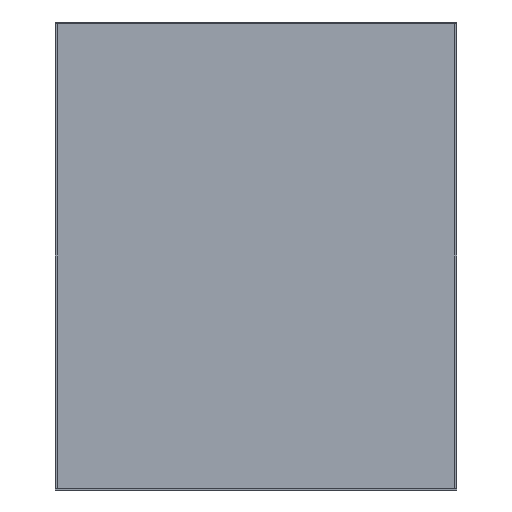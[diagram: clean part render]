
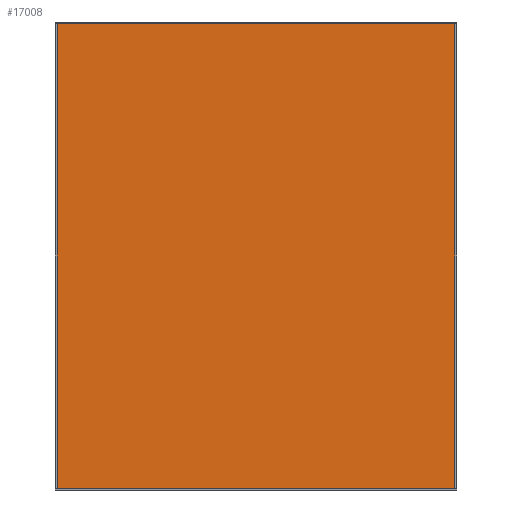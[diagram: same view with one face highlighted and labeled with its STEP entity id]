
A CAD part, front view. The second image highlights one B-rep face of the part: STEP entity #17008.
In plain terms, the highlighted planar face has unit normal (0, -1, 0).
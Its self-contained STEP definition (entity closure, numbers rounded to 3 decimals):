
#16792 = EDGE_CURVE('',#16793,#16795,#16797,.T.);
#16793 = VERTEX_POINT('',#16794);
#16794 = CARTESIAN_POINT('',(-0.155,-0.096,0.002)
  );
#16795 = VERTEX_POINT('',#16796);
#16796 = CARTESIAN_POINT('',(-0.155,-0.096,
    0.364));
#16797 = SURFACE_CURVE('',#16798,(#16802,#16814),.PCURVE_S1.);
#16798 = LINE('',#16799,#16800);
#16799 = CARTESIAN_POINT('',(-0.155,-0.096,0.002)
  );
#16800 = VECTOR('',#16801,1.);
#16801 = DIRECTION('',(0.,0.,1.));
#16802 = PCURVE('',#16803,#16808);
#16803 = PLANE('',#16804);
#16804 = AXIS2_PLACEMENT_3D('',#16805,#16806,#16807);
#16805 = CARTESIAN_POINT('',(-0.155,-0.096,0.002)
  );
#16806 = DIRECTION('',(1.,0.,0.));
#16807 = DIRECTION('',(0.,0.,1.));
#16808 = DEFINITIONAL_REPRESENTATION('',(#16809),#16813);
#16809 = LINE('',#16810,#16811);
#16810 = CARTESIAN_POINT('',(0.,0.));
#16811 = VECTOR('',#16812,1.);
#16812 = DIRECTION('',(1.,0.));
#16813 = ( GEOMETRIC_REPRESENTATION_CONTEXT(2) 
PARAMETRIC_REPRESENTATION_CONTEXT() REPRESENTATION_CONTEXT('2D SPACE',''
  ) );
#16814 = PCURVE('',#16815,#16820);
#16815 = PLANE('',#16816);
#16816 = AXIS2_PLACEMENT_3D('',#16817,#16818,#16819);
#16817 = CARTESIAN_POINT('',(-0.155,-0.096,0.002)
  );
#16818 = DIRECTION('',(0.,1.,0.));
#16819 = DIRECTION('',(0.,0.,1.));
#16820 = DEFINITIONAL_REPRESENTATION('',(#16821),#16825);
#16821 = LINE('',#16822,#16823);
#16822 = CARTESIAN_POINT('',(0.,0.));
#16823 = VECTOR('',#16824,1.);
#16824 = DIRECTION('',(1.,0.));
#16825 = ( GEOMETRIC_REPRESENTATION_CONTEXT(2) 
PARAMETRIC_REPRESENTATION_CONTEXT() REPRESENTATION_CONTEXT('2D SPACE',''
  ) );
#16843 = PLANE('',#16844);
#16844 = AXIS2_PLACEMENT_3D('',#16845,#16846,#16847);
#16845 = CARTESIAN_POINT('',(-0.155,-0.096,0.002)
  );
#16846 = DIRECTION('',(0.,0.,1.));
#16847 = DIRECTION('',(1.,0.,0.));
#16897 = PLANE('',#16898);
#16898 = AXIS2_PLACEMENT_3D('',#16899,#16900,#16901);
#16899 = CARTESIAN_POINT('',(-0.155,-0.096,
    0.364));
#16900 = DIRECTION('',(0.,0.,1.));
#16901 = DIRECTION('',(1.,0.,0.));
#16912 = EDGE_CURVE('',#16913,#16915,#16917,.T.);
#16913 = VERTEX_POINT('',#16914);
#16914 = CARTESIAN_POINT('',(0.155,-0.096,0.002)
  );
#16915 = VERTEX_POINT('',#16916);
#16916 = CARTESIAN_POINT('',(0.155,-0.096,
    0.364));
#16917 = SURFACE_CURVE('',#16918,(#16922,#16934),.PCURVE_S1.);
#16918 = LINE('',#16919,#16920);
#16919 = CARTESIAN_POINT('',(0.155,-0.096,0.002)
  );
#16920 = VECTOR('',#16921,1.);
#16921 = DIRECTION('',(0.,0.,1.));
#16922 = PCURVE('',#16923,#16928);
#16923 = PLANE('',#16924);
#16924 = AXIS2_PLACEMENT_3D('',#16925,#16926,#16927);
#16925 = CARTESIAN_POINT('',(0.155,-0.096,0.002)
  );
#16926 = DIRECTION('',(1.,0.,0.));
#16927 = DIRECTION('',(0.,0.,1.));
#16928 = DEFINITIONAL_REPRESENTATION('',(#16929),#16933);
#16929 = LINE('',#16930,#16931);
#16930 = CARTESIAN_POINT('',(0.,0.));
#16931 = VECTOR('',#16932,1.);
#16932 = DIRECTION('',(1.,0.));
#16933 = ( GEOMETRIC_REPRESENTATION_CONTEXT(2) 
PARAMETRIC_REPRESENTATION_CONTEXT() REPRESENTATION_CONTEXT('2D SPACE',''
  ) );
#16934 = PCURVE('',#16815,#16935);
#16935 = DEFINITIONAL_REPRESENTATION('',(#16936),#16940);
#16936 = LINE('',#16937,#16938);
#16937 = CARTESIAN_POINT('',(0.,0.31));
#16938 = VECTOR('',#16939,1.);
#16939 = DIRECTION('',(1.,0.));
#16940 = ( GEOMETRIC_REPRESENTATION_CONTEXT(2) 
PARAMETRIC_REPRESENTATION_CONTEXT() REPRESENTATION_CONTEXT('2D SPACE',''
  ) );
#17008 = ADVANCED_FACE('',(#17009),#16815,.F.);
#17009 = FACE_BOUND('',#17010,.F.);
#17010 = EDGE_LOOP('',(#17011,#17032,#17033,#17054));
#17011 = ORIENTED_EDGE('',*,*,#17012,.F.);
#17012 = EDGE_CURVE('',#16793,#16913,#17013,.T.);
#17013 = SURFACE_CURVE('',#17014,(#17018,#17025),.PCURVE_S1.);
#17014 = LINE('',#17015,#17016);
#17015 = CARTESIAN_POINT('',(-0.155,-0.096,0.002)
  );
#17016 = VECTOR('',#17017,1.);
#17017 = DIRECTION('',(1.,0.,0.));
#17018 = PCURVE('',#16815,#17019);
#17019 = DEFINITIONAL_REPRESENTATION('',(#17020),#17024);
#17020 = LINE('',#17021,#17022);
#17021 = CARTESIAN_POINT('',(0.,0.));
#17022 = VECTOR('',#17023,1.);
#17023 = DIRECTION('',(0.,1.));
#17024 = ( GEOMETRIC_REPRESENTATION_CONTEXT(2) 
PARAMETRIC_REPRESENTATION_CONTEXT() REPRESENTATION_CONTEXT('2D SPACE',''
  ) );
#17025 = PCURVE('',#16843,#17026);
#17026 = DEFINITIONAL_REPRESENTATION('',(#17027),#17031);
#17027 = LINE('',#17028,#17029);
#17028 = CARTESIAN_POINT('',(0.,0.));
#17029 = VECTOR('',#17030,1.);
#17030 = DIRECTION('',(1.,0.));
#17031 = ( GEOMETRIC_REPRESENTATION_CONTEXT(2) 
PARAMETRIC_REPRESENTATION_CONTEXT() REPRESENTATION_CONTEXT('2D SPACE',''
  ) );
#17032 = ORIENTED_EDGE('',*,*,#16792,.T.);
#17033 = ORIENTED_EDGE('',*,*,#17034,.T.);
#17034 = EDGE_CURVE('',#16795,#16915,#17035,.T.);
#17035 = SURFACE_CURVE('',#17036,(#17040,#17047),.PCURVE_S1.);
#17036 = LINE('',#17037,#17038);
#17037 = CARTESIAN_POINT('',(-0.155,-0.096,
    0.364));
#17038 = VECTOR('',#17039,1.);
#17039 = DIRECTION('',(1.,0.,0.));
#17040 = PCURVE('',#16815,#17041);
#17041 = DEFINITIONAL_REPRESENTATION('',(#17042),#17046);
#17042 = LINE('',#17043,#17044);
#17043 = CARTESIAN_POINT('',(0.362,0.));
#17044 = VECTOR('',#17045,1.);
#17045 = DIRECTION('',(0.,1.));
#17046 = ( GEOMETRIC_REPRESENTATION_CONTEXT(2) 
PARAMETRIC_REPRESENTATION_CONTEXT() REPRESENTATION_CONTEXT('2D SPACE',''
  ) );
#17047 = PCURVE('',#16897,#17048);
#17048 = DEFINITIONAL_REPRESENTATION('',(#17049),#17053);
#17049 = LINE('',#17050,#17051);
#17050 = CARTESIAN_POINT('',(0.,0.));
#17051 = VECTOR('',#17052,1.);
#17052 = DIRECTION('',(1.,0.));
#17053 = ( GEOMETRIC_REPRESENTATION_CONTEXT(2) 
PARAMETRIC_REPRESENTATION_CONTEXT() REPRESENTATION_CONTEXT('2D SPACE',''
  ) );
#17054 = ORIENTED_EDGE('',*,*,#16912,.F.);
